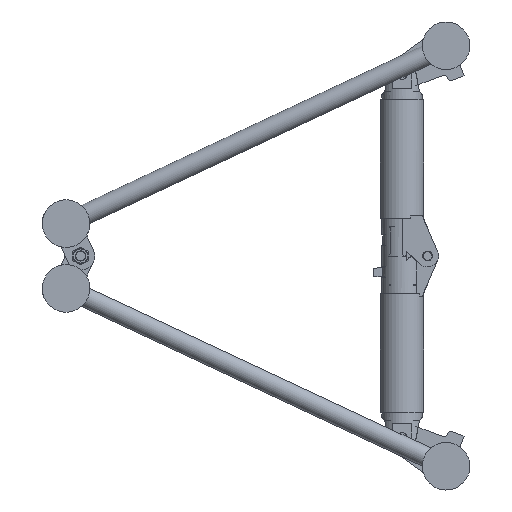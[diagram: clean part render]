
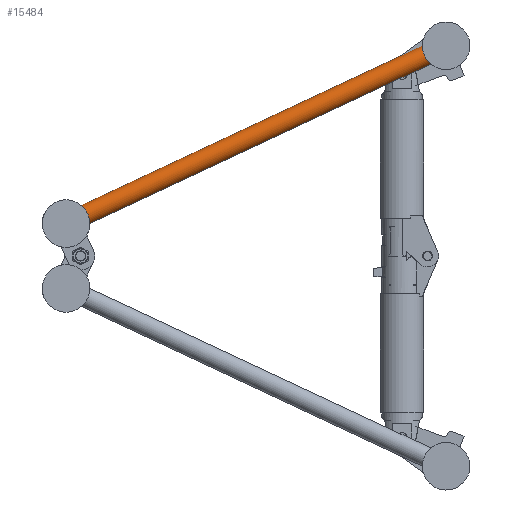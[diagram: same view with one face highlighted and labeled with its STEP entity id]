
A CAD part, left-side view. The second image highlights one B-rep face of the part: STEP entity #15484.
In plain terms, the highlighted cylindrical face has radius 12.5 mm (diameter 25 mm), a full revolution.
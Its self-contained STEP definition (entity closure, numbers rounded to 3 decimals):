
#272=B_SPLINE_CURVE_WITH_KNOTS('',3,(#25042,#25043,#25044,#25045,#25046,
#25047),.UNSPECIFIED.,.F.,.F.,(4,2,4),(1.801,1.922,
2.043),.UNSPECIFIED.);
#273=B_SPLINE_CURVE_WITH_KNOTS('',3,(#25051,#25052,#25053,#25054,#25055,
#25056),.UNSPECIFIED.,.F.,.F.,(4,2,4),(5.645,5.766,
5.887),.UNSPECIFIED.);
#276=B_SPLINE_CURVE_WITH_KNOTS('',3,(#25085,#25086,#25087,#25088,#25089,
#25090),.UNSPECIFIED.,.F.,.F.,(4,2,4),(5.645,5.766,
5.887),.UNSPECIFIED.);
#277=B_SPLINE_CURVE_WITH_KNOTS('',3,(#25094,#25095,#25096,#25097,#25098,
#25099),.UNSPECIFIED.,.F.,.F.,(4,2,4),(1.801,1.922,
2.043),.UNSPECIFIED.);
#683=FACE_BOUND('',#3300,.T.);
#1222=CIRCLE('',#16832,12.5);
#1223=CIRCLE('',#16834,12.5);
#1224=CIRCLE('',#16835,12.5);
#1225=CIRCLE('',#16836,12.5);
#1572=CYLINDRICAL_SURFACE('',#16833,12.5);
#2198=FACE_OUTER_BOUND('',#3299,.T.);
#3299=EDGE_LOOP('',(#12055,#12056,#12057,#12058));
#3300=EDGE_LOOP('',(#12059,#12060,#12061,#12062));
#6949=VERTEX_POINT('',#25040);
#6950=VERTEX_POINT('',#25041);
#6951=VERTEX_POINT('',#25048);
#6952=VERTEX_POINT('',#25050);
#6958=VERTEX_POINT('',#25083);
#6959=VERTEX_POINT('',#25084);
#6960=VERTEX_POINT('',#25091);
#6961=VERTEX_POINT('',#25093);
#8785=EDGE_CURVE('',#6949,#6950,#272,.T.);
#8787=EDGE_CURVE('',#6952,#6951,#273,.T.);
#8794=EDGE_CURVE('',#6951,#6949,#1222,.T.);
#8795=EDGE_CURVE('',#6958,#6959,#276,.T.);
#8796=EDGE_CURVE('',#6959,#6960,#1223,.T.);
#8797=EDGE_CURVE('',#6960,#6961,#277,.T.);
#8798=EDGE_CURVE('',#6961,#6958,#1224,.T.);
#8799=EDGE_CURVE('',#6950,#6952,#1225,.T.);
#12055=ORIENTED_EDGE('',*,*,#8795,.T.);
#12056=ORIENTED_EDGE('',*,*,#8796,.T.);
#12057=ORIENTED_EDGE('',*,*,#8797,.T.);
#12058=ORIENTED_EDGE('',*,*,#8798,.T.);
#12059=ORIENTED_EDGE('',*,*,#8787,.T.);
#12060=ORIENTED_EDGE('',*,*,#8794,.T.);
#12061=ORIENTED_EDGE('',*,*,#8785,.T.);
#12062=ORIENTED_EDGE('',*,*,#8799,.T.);
#15484=ADVANCED_FACE('',(#2198,#683),#1572,.T.);
#16832=AXIS2_PLACEMENT_3D('',#25081,#20133,#20134);
#16833=AXIS2_PLACEMENT_3D('',#25082,#20135,#20136);
#16834=AXIS2_PLACEMENT_3D('',#25092,#20137,#20138);
#16835=AXIS2_PLACEMENT_3D('',#25100,#20139,#20140);
#16836=AXIS2_PLACEMENT_3D('',#25101,#20141,#20142);
#20133=DIRECTION('center_axis',(0.,0.906,
-0.424));
#20134=DIRECTION('ref_axis',(1.,0.,0.));
#20135=DIRECTION('center_axis',(0.,0.906,
-0.424));
#20136=DIRECTION('ref_axis',(1.,0.,0.));
#20137=DIRECTION('center_axis',(0.,-0.906,
0.424));
#20138=DIRECTION('ref_axis',(1.,0.,0.));
#20139=DIRECTION('center_axis',(0.,-0.906,
0.424));
#20140=DIRECTION('ref_axis',(1.,0.,0.));
#20141=DIRECTION('center_axis',(0.,0.906,
-0.424));
#20142=DIRECTION('ref_axis',(1.,0.,0.));
#25040=CARTESIAN_POINT('',(80.06,22.096,248.305));
#25041=CARTESIAN_POINT('',(80.06,23.134,250.523));
#25042=CARTESIAN_POINT('Ctrl Pts',(80.06,22.096,248.305));
#25043=CARTESIAN_POINT('Ctrl Pts',(80.02,22.289,248.669));
#25044=CARTESIAN_POINT('Ctrl Pts',(80.,22.471,249.036));
#25045=CARTESIAN_POINT('Ctrl Pts',(80.,22.813,249.767));
#25046=CARTESIAN_POINT('Ctrl Pts',(80.02,22.978,250.142));
#25047=CARTESIAN_POINT('Ctrl Pts',(80.06,23.134,250.523));
#25048=CARTESIAN_POINT('',(104.94,22.096,248.305));
#25050=CARTESIAN_POINT('',(104.94,23.134,250.523));
#25051=CARTESIAN_POINT('Ctrl Pts',(104.94,23.134,250.523));
#25052=CARTESIAN_POINT('Ctrl Pts',(104.98,22.978,250.142));
#25053=CARTESIAN_POINT('Ctrl Pts',(105.,22.813,249.767));
#25054=CARTESIAN_POINT('Ctrl Pts',(105.,22.471,249.036));
#25055=CARTESIAN_POINT('Ctrl Pts',(104.98,22.289,248.669));
#25056=CARTESIAN_POINT('Ctrl Pts',(104.94,22.096,248.305));
#25081=CARTESIAN_POINT('Origin',(92.5,22.615,249.414));
#25082=CARTESIAN_POINT('Origin',(92.5,234.999,150.));
#25083=CARTESIAN_POINT('',(104.94,446.865,49.477));
#25084=CARTESIAN_POINT('',(104.94,447.903,51.695));
#25085=CARTESIAN_POINT('Ctrl Pts',(104.94,446.865,49.477));
#25086=CARTESIAN_POINT('Ctrl Pts',(104.98,447.021,49.858));
#25087=CARTESIAN_POINT('Ctrl Pts',(105.,447.185,50.233));
#25088=CARTESIAN_POINT('Ctrl Pts',(105.,447.528,50.964));
#25089=CARTESIAN_POINT('Ctrl Pts',(104.98,447.71,51.331));
#25090=CARTESIAN_POINT('Ctrl Pts',(104.94,447.903,51.695));
#25091=CARTESIAN_POINT('',(80.06,447.903,51.695));
#25092=CARTESIAN_POINT('Origin',(92.5,447.384,50.586));
#25093=CARTESIAN_POINT('',(80.06,446.865,49.477));
#25094=CARTESIAN_POINT('Ctrl Pts',(80.06,447.903,51.695));
#25095=CARTESIAN_POINT('Ctrl Pts',(80.02,447.71,51.331));
#25096=CARTESIAN_POINT('Ctrl Pts',(80.,447.528,50.964));
#25097=CARTESIAN_POINT('Ctrl Pts',(80.,447.185,50.233));
#25098=CARTESIAN_POINT('Ctrl Pts',(80.02,447.021,49.858));
#25099=CARTESIAN_POINT('Ctrl Pts',(80.06,446.865,49.477));
#25100=CARTESIAN_POINT('Origin',(92.5,447.384,50.586));
#25101=CARTESIAN_POINT('Origin',(92.5,22.615,249.414));
